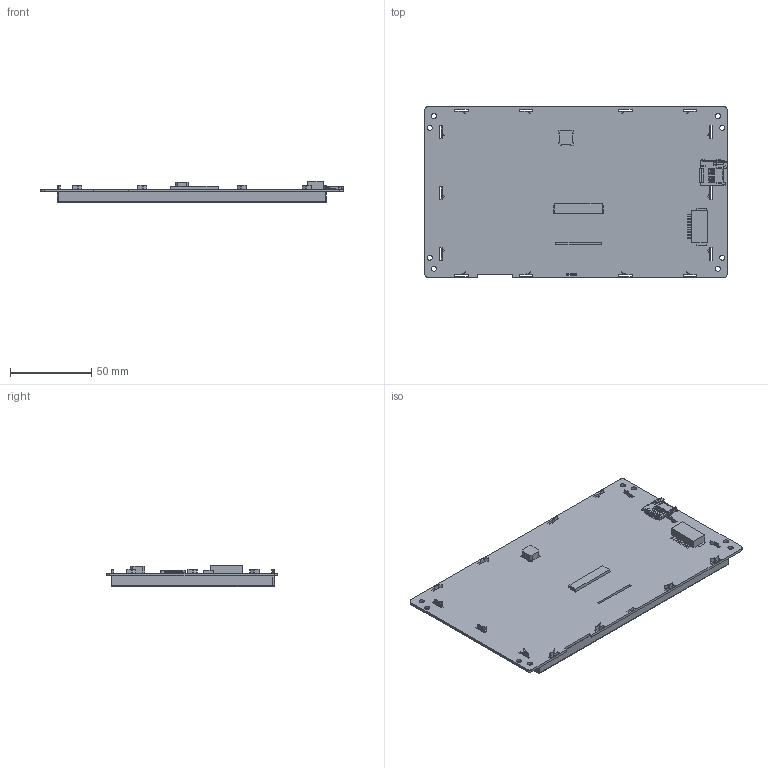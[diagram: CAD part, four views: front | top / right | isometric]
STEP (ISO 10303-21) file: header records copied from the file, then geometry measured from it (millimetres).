
FILE_DESCRIPTION(/* description */ (''),/* implementation_level */ '2;1');
FILE_NAME(/* name */ '3D-SDWb070C84N_stp.stp',/* time_stamp */ '2024-07-02T10:43:50+08:00',/* author */ (''),/* organization */ (''),/* preprocessor_version */ 'ST-DEVELOPER v16',/* originating_system */ 'SIEMENS PLM Software NX 10.0',/* authorisation */ '');
FILE_SCHEMA (('AP203_CONFIGURATION_CONTROLLED_3D_DESIGN_OF_MECHANICAL_PARTS_AND_ASSEMBLIES_MIM_LF { 1 0 10303 403 2 1 2}'));
Length unit declared in the file: millimetre
Products named in the file (1): 3D-SDWb070C84N_stp
Bounding box: 186.3 x 105.4 x 13.3 mm (x, y, z)
Volume: 217197.8 mm3; surface area: 117053.8 mm2
Topology: 10 solids, 10 shells, 1283 faces, 3649 edges, 2364 vertices
Faces by surface type: plane 992, cylinder 290, cone 1
Full cylindrical faces by diameter (mm): 3.2 x8
Entity records: 42326 total; most frequent: CARTESIAN_POINT 7310, ORIENTED_EDGE 7282, DIRECTION 6787, EDGE_CURVE 3641, LINE 3049, VECTOR 3049, VERTEX_POINT 2364, AXIS2_PLACEMENT_3D 1869
